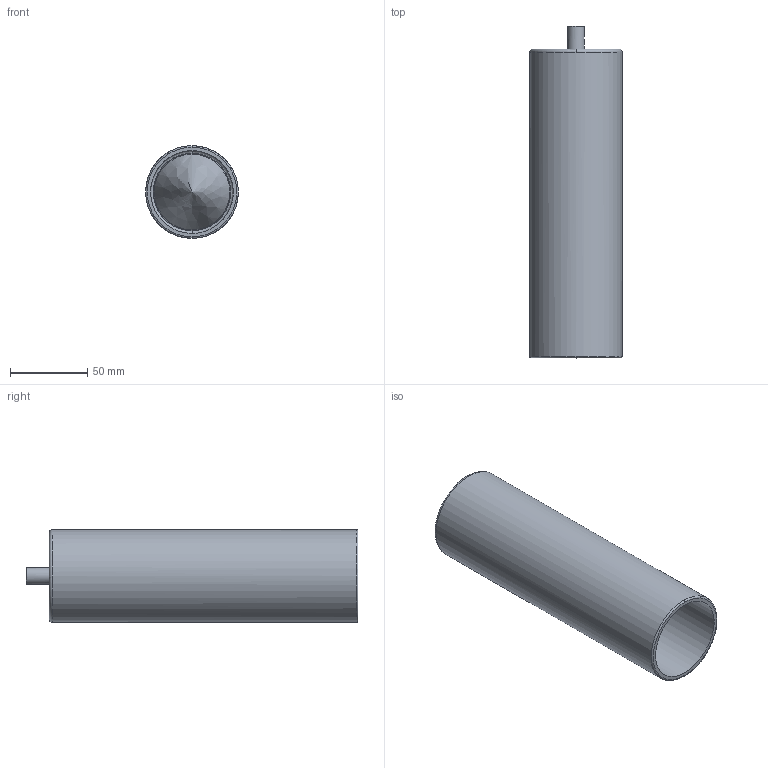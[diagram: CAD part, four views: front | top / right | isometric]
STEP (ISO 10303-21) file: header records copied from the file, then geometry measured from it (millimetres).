
FILE_DESCRIPTION(/* description */ (''),/* implementation_level */ '2;1');
FILE_NAME(/* name */ 'SEM.000262',/* time_stamp */ '2025-04-15T18:12:57+02:00',/* author */ (''),/* organization */ (''),/* preprocessor_version */ 'ST-DEVELOPER v16.5',/* originating_system */ 'Rhino 7.37',/* authorisation */ '');
FILE_SCHEMA (('CONFIG_CONTROL_DESIGN'));
Length unit declared in the file: millimetre
Products named in the file (1): Document
Bounding box: 60 x 215 x 60 mm (x, y, z)
Volume: 164118.7 mm3; surface area: 108579 mm2
Topology: 4 solids, 4 shells, 91 faces, 323 edges, 241 vertices
Faces by surface type: cylinder 37, bspline 30, plane 24
Full cylindrical faces by diameter (mm): 2.459 x2, 3 x2, 4.134 x1, 5 x1, 7.5 x4, 8 x1, 8.2 x4, 11 x1, 40.5 x1, 40.7 x1, 41.6 x1, 42 x2, 45 x1, 50 x1, 53.6 x1, 60 x1
Entity records: 5817 total; most frequent: CARTESIAN_POINT 3878, ORIENTED_EDGE 636, EDGE_CURVE 318, VERTEX_POINT 241, B_SPLINE_CURVE_WITH_KNOTS 134, EDGE_LOOP 119, ADVANCED_FACE 91, FACE_OUTER_BOUND 91
